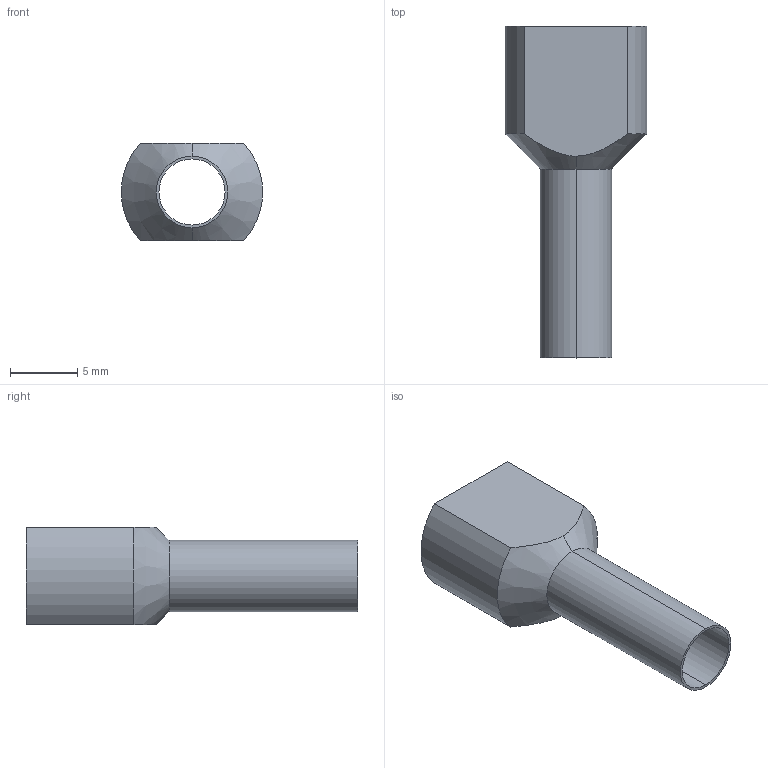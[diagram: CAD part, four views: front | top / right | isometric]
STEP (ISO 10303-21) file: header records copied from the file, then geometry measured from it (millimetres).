
FILE_DESCRIPTION (( 'STEP AP214' ), '1' );
FILE_NAME ('278052 OptiKit T-Shv2-PVC-6,0-14.STEP', '2020-02-19T10:36:23', ( '' ), ( '' ), 'SwSTEP 2.0', 'SolidWorks 2018', '' );
FILE_SCHEMA (( 'AUTOMOTIVE_DESIGN' ));
Length unit declared in the file: millimetre
Products named in the file (1): 278052 OptiKit T-Shv2-PVC-6,0-14
Bounding box: 10.46 x 24.6 x 7.2 mm (x, y, z)
Volume: 109.7 mm3; surface area: 1105.9 mm2
Topology: 1 solids, 1 shells, 18 faces, 44 edges, 28 vertices
Faces by surface type: cylinder 8, plane 6, cone 4
Entity records: 836 total; most frequent: CARTESIAN_POINT 175, DIRECTION 90, ORIENTED_EDGE 88, EDGE_CURVE 44, AXIS2_PLACEMENT_3D 35, VERTEX_POINT 28, UNCERTAINTY_MEASURE_WITH_UNIT 21, MECHANICAL_DESIGN_GEOMETRIC_PRESENTATION_REPRESENTATION 20
